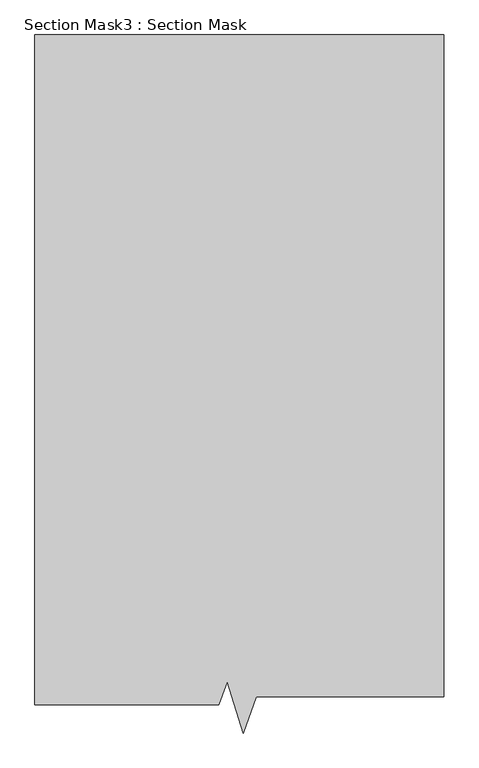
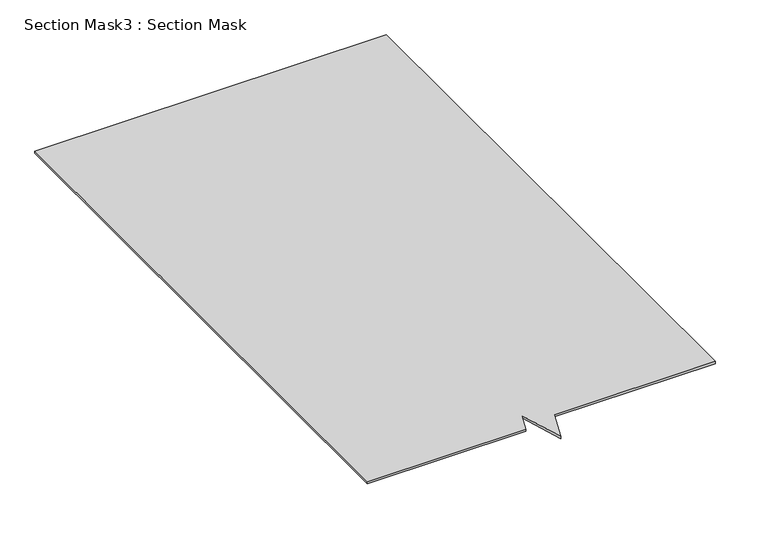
"""IFC4 building model written with IfcOpenShell, lengths in millimetres: proxy geometry, Section Mask3 : Section Mask."""

from ifc_helpers import new_model, si_unit, frame, origin, place, context, project, spatial, polyline, outline, extrude, source, transform, mapped, element, save


def section_mask3_section_mask_50256857(model_context):
    return source(origin(), model_context, "Body", "SweptSolid", [
        extrude(outline(polyline([(8137.364325, 586.823934), (7633.1736421, 586.823934), (7633.1736421, 2421.0114947), (8752.9802012, 2421.0114947), (8752.9802012, 607.6724056), (8239.9982256, 607.6724056), (8203.3813689, 508.5095639), (8160.3812645, 649.1565681), (8137.364325, 586.823934)])), frame((0.0, 0.0, 45.0273345), z_axis=(0.0, 0.0, 1.0), x_axis=(1.0, 0.0, 0.0)), (0.0, 0.0, 1.0), 7.2631445),
    ])


if __name__ == "__main__":
    model = new_model("IFC4")
    model_context = context("Model", 3, world=origin())
    ifc_project = project(units=[si_unit("LENGTHUNIT", "METRE", prefix="MILLI")], contexts=[model_context])
    site = spatial("IfcSite", under=ifc_project)
    building = spatial("IfcBuilding", under=site)
    placement = place(None, origin())
    section_mask3_section_mask_shape = section_mask3_section_mask_50256857(model_context)
    element("IfcBuildingElementProxy", 1, Name="Section Mask3 : Section Mask", ObjectType="Section Mask3 : Section Mask", at=placement, inside=building, context=model_context, shape_type="MappedRepresentation", body=[
        mapped(section_mask3_section_mask_shape, transform((0.0, 0.0, 0.0), x_axis=(1.0, 0.0, 0.0), y_axis=(0.0, 1.0, 0.0), z_axis=(0.0, 0.0, 1.0))),
    ])
    save(model, "model.ifc")
